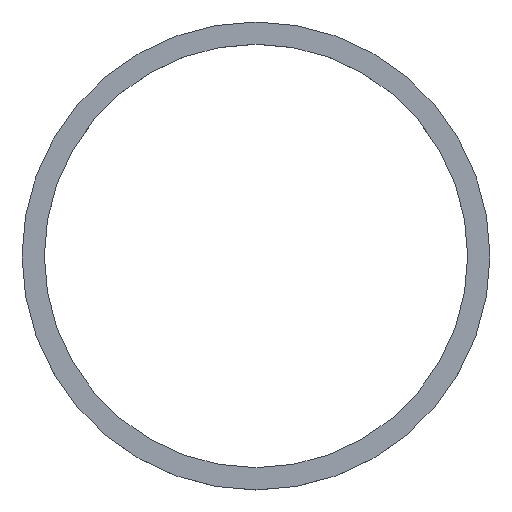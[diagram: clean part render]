
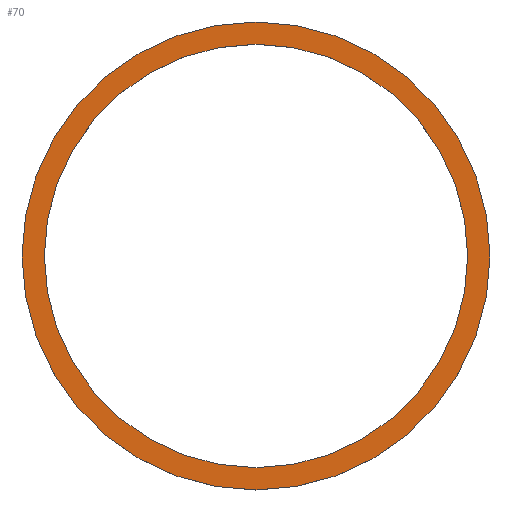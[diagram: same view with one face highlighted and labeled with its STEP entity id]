
A CAD part, top view. The second image highlights one B-rep face of the part: STEP entity #70.
In plain terms, the highlighted planar face has unit normal (0, 0, 1).
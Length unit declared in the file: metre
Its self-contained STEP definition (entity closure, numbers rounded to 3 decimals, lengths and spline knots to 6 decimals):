
#51 = VERTEX_POINT('',#52);
#52 = CARTESIAN_POINT('',(0.21,0.,0.01));
#58 = EDGE_CURVE('',#51,#51,#59,.T.);
#59 = CIRCLE('',#60,0.21);
#60 = AXIS2_PLACEMENT_3D('',#61,#62,#63);
#61 = CARTESIAN_POINT('',(0.,0.,0.01));
#62 = DIRECTION('',(0.,0.,1.));
#63 = DIRECTION('',(1.,0.,0.));
#70 = ADVANCED_FACE('',(#71,#74),#85,.T.);
#71 = FACE_BOUND('',#72,.T.);
#72 = EDGE_LOOP('',(#73));
#73 = ORIENTED_EDGE('',*,*,#58,.T.);
#74 = FACE_BOUND('',#75,.T.);
#75 = EDGE_LOOP('',(#76));
#76 = ORIENTED_EDGE('',*,*,#77,.F.);
#77 = EDGE_CURVE('',#78,#78,#80,.T.);
#78 = VERTEX_POINT('',#79);
#79 = CARTESIAN_POINT('',(0.19,0.,0.01));
#80 = CIRCLE('',#81,0.19);
#81 = AXIS2_PLACEMENT_3D('',#82,#83,#84);
#82 = CARTESIAN_POINT('',(0.,0.,0.01));
#83 = DIRECTION('',(0.,0.,1.));
#84 = DIRECTION('',(1.,0.,0.));
#85 = PLANE('',#86);
#86 = AXIS2_PLACEMENT_3D('',#87,#88,#89);
#87 = CARTESIAN_POINT('',(0.,0.,0.01));
#88 = DIRECTION('',(0.,0.,1.));
#89 = DIRECTION('',(1.,0.,0.));
